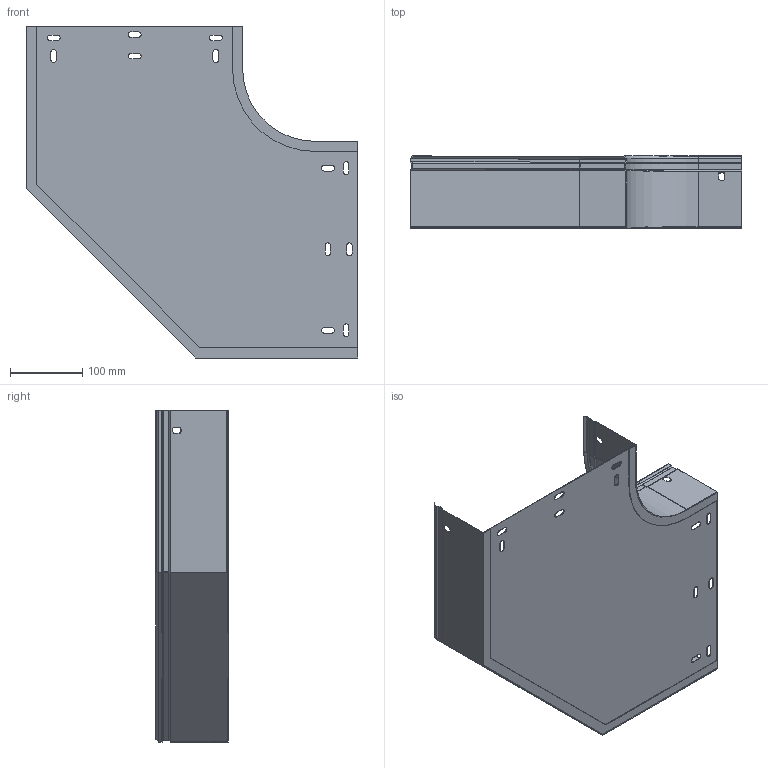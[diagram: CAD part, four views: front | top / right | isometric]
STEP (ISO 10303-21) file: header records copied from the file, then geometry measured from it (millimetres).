
FILE_DESCRIPTION (( 'STEP AP203' ), '1' );
FILE_NAME ('ERE_CPERC 300x100.step', '2023-07-27T18:48:11', ( '' ), ( '' ), 'SwSTEP 2.0', 'SolidWorks 2022', '' );
FILE_SCHEMA (( 'CONFIG_CONTROL_DESIGN' ));
Length unit declared in the file: millimetre
Products named in the file (4): ERE_LATERAL INT CP_100; ERE_BASE CP_300; ERE_CPERC 300x100; ERE_LATERAL EXT CP_300 x 100
Assembly tree (3 placements, depth 2):
  ERE_CPERC 300x100
    ERE_BASE CP_300
    ERE_LATERAL INT CP_100
    ERE_LATERAL EXT CP_300 x 100
Bounding box: 460.76 x 100 x 460.76 mm (x, y, z)
Volume: 281221.9 mm3; surface area: 567360 mm2
Topology: 3 solids, 3 shells, 172 faces, 450 edges, 284 vertices
Faces by surface type: plane 119, cylinder 46, cone 7
Entity records: 5682 total; most frequent: CARTESIAN_POINT 912, DIRECTION 900, ORIENTED_EDGE 900, EDGE_CURVE 450, VECTOR 356, LINE 356, VERTEX_POINT 284, AXIS2_PLACEMENT_3D 272
